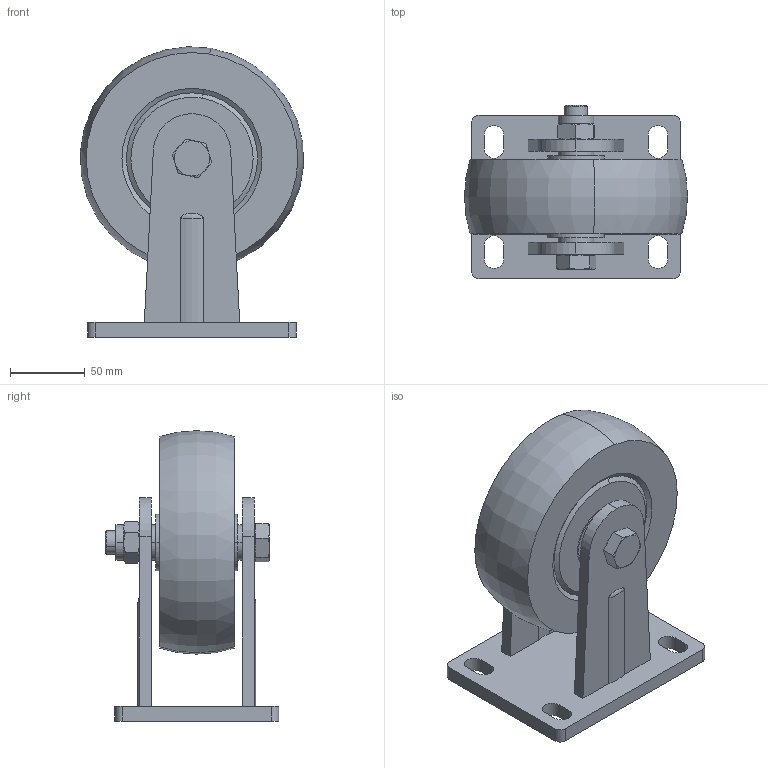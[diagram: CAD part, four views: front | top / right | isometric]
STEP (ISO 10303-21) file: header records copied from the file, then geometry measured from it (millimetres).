
FILE_DESCRIPTION (( 'STEP AP203' ), '1' );
FILE_NAME ('6渡-1-隅砃.STEP', '2023-08-01T09:30:18', ( 'Microsoft' ), ( 'Microsoft' ), 'SwSTEP 2.0', 'SolidWorks 2016', '' );
FILE_SCHEMA (( 'CONFIG_CONTROL_DESIGN' ));
Length unit declared in the file: millimetre
Products named in the file (7): 深沟球轴承-47-17-14; 6渡-1-謫赽; 6渡-1-隅砃; 鞠褒芛蹟邡GBT5783-M16X100_M16X100蹟邡; 6渡-1-奻盓殤; 6寸-1-挡圈; 非金属嵌件防松螺母-M16
Assembly tree (8 placements, depth 2):
  6渡-1-隅砃
    6渡-1-奻盓殤
    6渡-1-謫赽
    6寸-1-挡圈  x2
    非金属嵌件防松螺母-M16
    鞠褒芛蹟邡GBT5783-M16X100_M16X100蹟邡
    深沟球轴承-47-17-14  x2
Bounding box: 149.7 x 116.5 x 194.94 mm (x, y, z)
Volume: 1093603.6 mm3; surface area: 166363.2 mm2
Topology: 8 solids, 10 shells, 338 faces, 984 edges, 595 vertices
Faces by surface type: bspline 138, cylinder 88, plane 75, cone 33, torus 4
Entity records: 9982 total; most frequent: CARTESIAN_POINT 3783, ORIENTED_EDGE 1212, DIRECTION 1027, EDGE_CURVE 606, AXIS2_PLACEMENT_3D 431, VERTEX_POINT 395, EDGE_LOOP 287, CIRCLE 257
